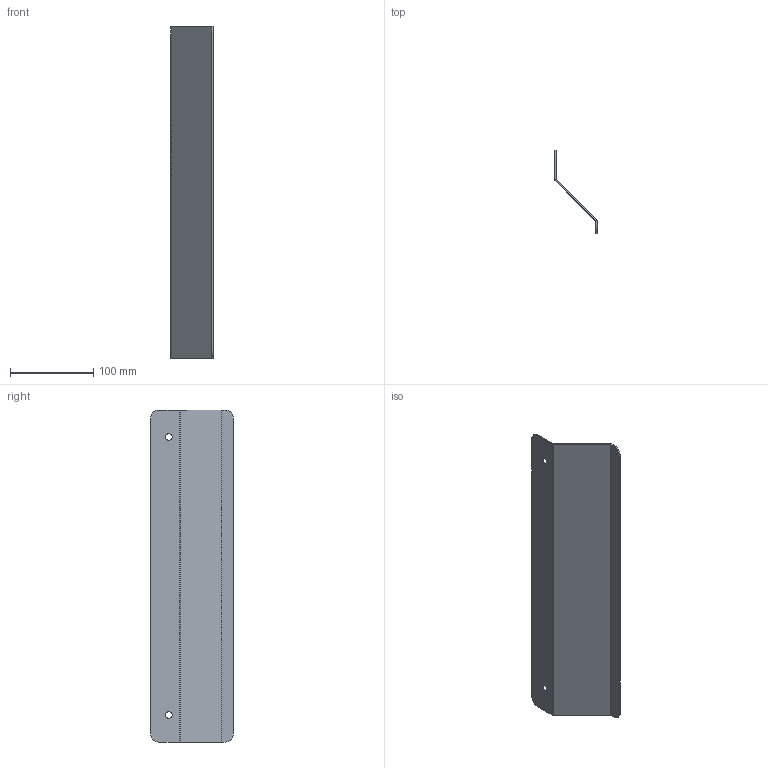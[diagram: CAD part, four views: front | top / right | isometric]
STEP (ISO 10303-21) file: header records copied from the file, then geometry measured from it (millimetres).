
FILE_DESCRIPTION (( 'STEP AP214' ), '1' );
FILE_NAME ('L00067.STEP', '2026-07-27T08:58:37', ( '' ), ( '' ), 'SwSTEP 2.0', 'SolidWorks 2024', '' );
FILE_SCHEMA (( 'AUTOMOTIVE_DESIGN' ));
Length unit declared in the file: millimetre
Products named in the file (1): L00067
Bounding box: 51 x 100 x 400 mm (x, y, z)
Volume: 71945.1 mm3; surface area: 97537.6 mm2
Topology: 1 solids, 1 shells, 30 faces, 68 edges, 40 vertices
Faces by surface type: plane 18, cylinder 12
Entity records: 859 total; most frequent: DIRECTION 154, CARTESIAN_POINT 139, ORIENTED_EDGE 136, EDGE_CURVE 68, AXIS2_PLACEMENT_3D 55, VECTOR 44, LINE 44, VERTEX_POINT 40
